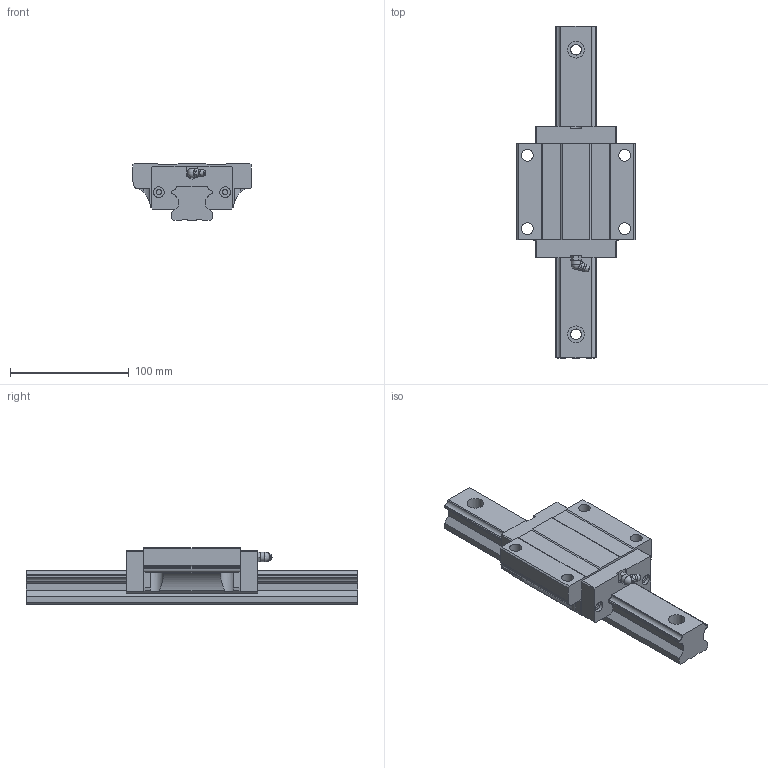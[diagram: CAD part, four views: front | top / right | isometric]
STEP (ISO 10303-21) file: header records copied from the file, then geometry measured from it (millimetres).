
FILE_DESCRIPTION(/* description */ (''),/* implementation_level */ '2;1');
FILE_NAME(/* name */ 'MSA35A',/* time_stamp */ '2003-12-26T14:14:29+08:00',/* author */ (''),/* organization */ (''),/* preprocessor_version */ 'ST-DEVELOPER v9',/* originating_system */ '',/* authorisation */ '');
FILE_SCHEMA (('CONFIG_CONTROL_DESIGN'));
Length unit declared in the file: millimetre
Products named in the file (1): zircDFD6hlwv
Bounding box: 100 x 280 x 48 mm (x, y, z)
Volume: 500199.9 mm3; surface area: 83413.1 mm2
Topology: 3 solids, 3 shells, 201 faces, 551 edges, 364 vertices
Faces by surface type: plane 145, cylinder 45, torus 7, sphere 2, cone 1, bspline 1
Full cylindrical faces by diameter (mm): 4.5 x4, 8 x1, 9 x8, 10 x4, 14 x4
Entity records: 6411 total; most frequent: CARTESIAN_POINT 1272, ORIENTED_EDGE 1034, DIRECTION 1026, EDGE_CURVE 517, LINE 358, VECTOR 358, VERTEX_POINT 356, AXIS2_PLACEMENT_3D 334
